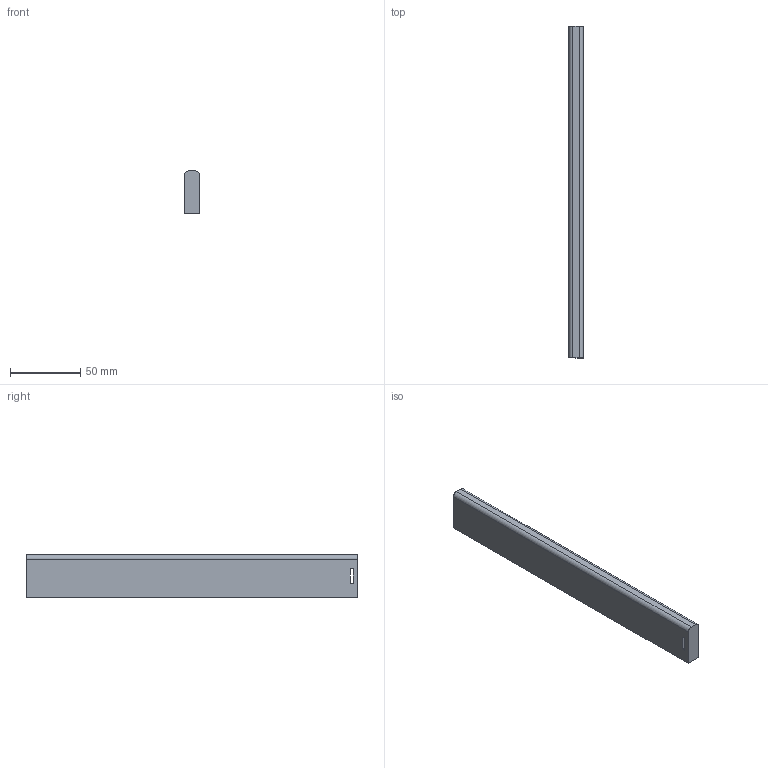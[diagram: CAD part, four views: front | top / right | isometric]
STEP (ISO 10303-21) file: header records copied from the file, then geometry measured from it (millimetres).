
FILE_DESCRIPTION (( 'STEP AP214' ), '1' );
FILE_NAME ('_Seitenreling_S760605500_RL235,5.step', '2010-09-06T14:51:24', ( 'grass' ), ( '' ), 'SwSTEP 2.0', 'SolidWorks 2010', '' );
FILE_SCHEMA (( 'AUTOMOTIVE_DESIGN' ));
Length unit declared in the file: millimetre
Products named in the file (1): _Seitenreling_S760605500_RL235,5
Bounding box: 10.5 x 235.5 x 30 mm (x, y, z)
Volume: 73034.1 mm3; surface area: 19303.5 mm2
Topology: 1 solids, 1 shells, 12 faces, 30 edges, 20 vertices
Faces by surface type: plane 8, cylinder 4
Entity records: 400 total; most frequent: DIRECTION 64, CARTESIAN_POINT 63, ORIENTED_EDGE 60, EDGE_CURVE 30, LINE 22, VECTOR 22, AXIS2_PLACEMENT_3D 21, VERTEX_POINT 20
